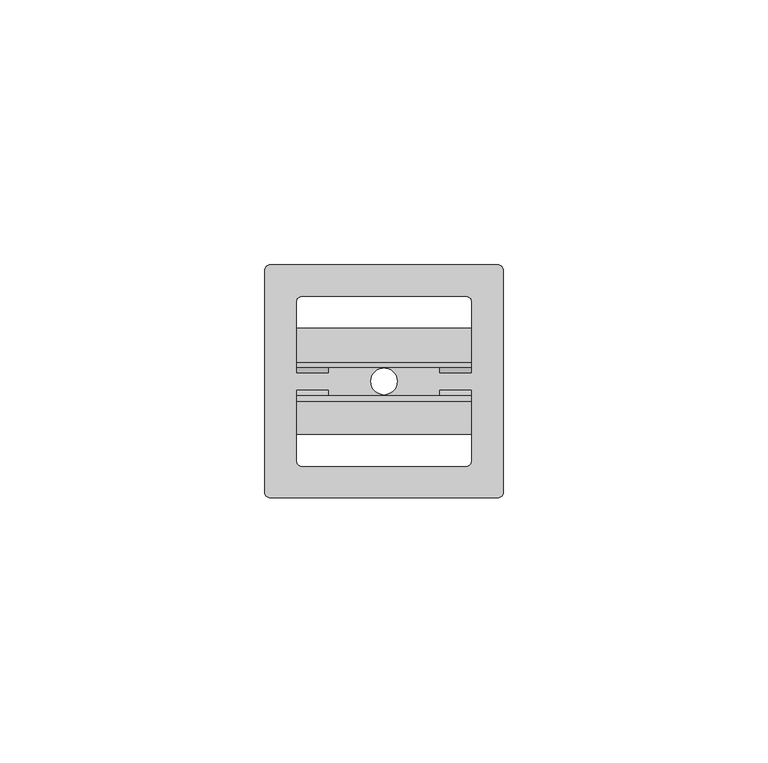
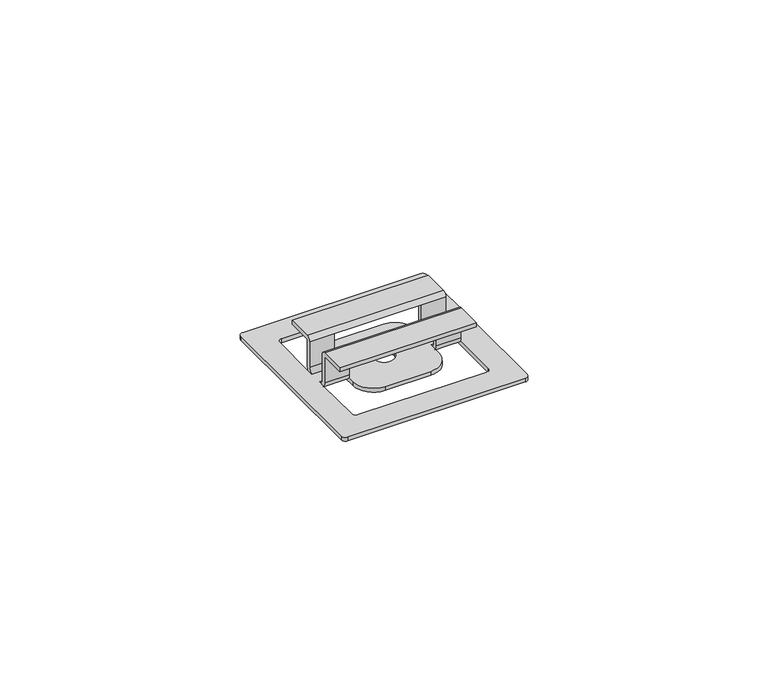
"""IFC4 building model written with IfcOpenShell, lengths in millimetres: proxy geometry, Klips montażowy : Klips montażowy."""

import ifcopenshell
import ifcopenshell.guid

model = None  # the IFC model being written
_history = None  # IfcOwnerHistory: only IFC2X3 demands one
_inside = {}  # id of a spatial element -> (the spatial element, [elements in it])
_under = {}  # id of a project, library or spatial element -> (it, [spatial elements below it])
_declared = {}  # id of a project -> (the project, [libraries it declares])
_typed = {}  # id of a type object -> (the type object, [elements of that type])
_made_of = {}  # id of a material, layer set ... -> (it, [elements and type objects made of it])


def new_model(schema):
    """Start an empty IFC model of exactly this schema.

    Asked for "IFC4X3", IfcOpenShell would pick the latest addendum, in which some entities
    have other attributes; the version numbers below select the first issue.
    IFC2X3 requires an IfcOwnerHistory on every rooted entity: one is made here for all.
    """
    global model, _history
    if schema == "IFC4X3":
        model = ifcopenshell.file(schema_version=(4, 3, 0, 0))
    else:
        model = ifcopenshell.file(schema=schema)
    _inside.clear()
    _under.clear()
    _declared.clear()
    _typed.clear()
    _made_of.clear()
    _history = None
    if model.schema == "IFC2X3":
        org = make("IfcOrganization", Name="unknown")
        user = make(
            "IfcPersonAndOrganization",
            ThePerson=make("IfcPerson", FamilyName="unknown"),
            TheOrganization=org,
        )
        app = make(
            "IfcApplication",
            ApplicationDeveloper=org,
            Version="unknown",
            ApplicationFullName="unknown",
            ApplicationIdentifier="unknown",
        )
        _history = make(
            "IfcOwnerHistory",
            OwningUser=user,
            OwningApplication=app,
            ChangeAction="ADDED",
            CreationDate=0,
        )
    return model


def make(cls, **values):
    """One entity of the class cls with the attributes given. An attribute that is None is left unset."""
    return model.create_entity(
        cls, **{name: value for name, value in values.items() if value is not None}
    )


def rooted(cls, **values):
    """An entity with a GlobalId (a new one), such as an element, a storey or a relation."""
    return make(cls, GlobalId=ifcopenshell.guid.new(), OwnerHistory=_history, **values)


def si_unit(unit_type, name, prefix=None):
    """IfcSIUnit, for example si_unit("LENGTHUNIT", "METRE", prefix="MILLI")."""
    return make("IfcSIUnit", UnitType=unit_type, Prefix=prefix, Name=name)


def assignment(units):
    """IfcUnitAssignment: the units of a project."""
    return None if units is None else make("IfcUnitAssignment", Units=units)


def point(xyz):
    """IfcCartesianPoint."""
    return None if xyz is None else make("IfcCartesianPoint", Coordinates=xyz)


def direction(xyz):
    """IfcDirection."""
    return None if xyz is None else make("IfcDirection", DirectionRatios=xyz)


def frame(location, z_axis=None, x_axis=None):
    """IfcAxis2Placement3D, a coordinate frame: its origin and axes. An axis left out is left unset."""
    return make(
        "IfcAxis2Placement3D",
        Location=point(location),
        Axis=direction(z_axis),
        RefDirection=direction(x_axis),
    )


def origin():
    """The frame at (0, 0, 0) with its axes left unset."""
    return frame((0.0, 0.0, 0.0))


def origin_with_axes():
    """The frame at (0, 0, 0) with the z axis (0, 0, 1) and the x axis (1, 0, 0) written out."""
    return frame((0.0, 0.0, 0.0), z_axis=(0.0, 0.0, 1.0), x_axis=(1.0, 0.0, 0.0))


def place(relative_to, where):
    """IfcLocalPlacement: puts the frame where relative to a parent placement (None: the world)."""
    return make(
        "IfcLocalPlacement", PlacementRelTo=relative_to, RelativePlacement=where
    )


def context(
    kind, dimensions, precision=None, world=None, true_north=None, identifier=None
):
    """IfcGeometricRepresentationContext, for example the 3D "Model" context."""
    return make(
        "IfcGeometricRepresentationContext",
        ContextIdentifier=identifier,
        ContextType=kind,
        CoordinateSpaceDimension=dimensions,
        Precision=precision,
        WorldCoordinateSystem=world,
        TrueNorth=true_north,
    )


def project(units=None, contexts=None):
    """IfcProject with its units and contexts."""
    return rooted(
        "IfcProject",
        Name="project",
        RepresentationContexts=contexts,
        UnitsInContext=assignment(units),
    )


def spatial(cls, under=None, at=None, **own):
    """A site, building, storey or space (cls), placed at a placement, below another one or the project."""
    s = rooted(cls, ObjectPlacement=at, **own)
    if under is not None:
        _under.setdefault(under.id(), (under, []))[1].append(s)
    return s


def polyline(points):
    """IfcPolyline through the points."""
    return make("IfcPolyline", Points=[point(p) for p in points])


def circle_curve(where, radius):
    """IfcCircle in the frame where."""
    return make("IfcCircle", Position=where, Radius=radius)


def shape(context_of_items, identifier, shape_type, items):
    """IfcShapeRepresentation: the items that make up one representation, for example the "Body"."""
    return make(
        "IfcShapeRepresentation",
        ContextOfItems=context_of_items,
        RepresentationIdentifier=identifier,
        RepresentationType=shape_type,
        Items=items,
    )


def source(mapping_origin, context_of_items, identifier, shape_type, items):
    """IfcRepresentationMap: a shape defined once, which mapped items show again and again."""
    return make(
        "IfcRepresentationMap",
        MappingOrigin=mapping_origin,
        MappedRepresentation=shape(context_of_items, identifier, shape_type, items),
    )


def transform(
    local_origin,
    x_axis=None,
    y_axis=None,
    z_axis=None,
    scale=None,
    scale2=None,
    scale3=None,
    uniform=True,
):
    """IfcCartesianTransformationOperator3D, or its non-uniform kind. x_axis, y_axis, z_axis: its Axis1, 2, 3."""
    if uniform:
        return make(
            "IfcCartesianTransformationOperator3D",
            Axis1=direction(x_axis),
            Axis2=direction(y_axis),
            LocalOrigin=point(local_origin),
            Scale=scale,
            Axis3=direction(z_axis),
        )
    return make(
        "IfcCartesianTransformationOperator3DnonUniform",
        Axis1=direction(x_axis),
        Axis2=direction(y_axis),
        LocalOrigin=point(local_origin),
        Scale=scale,
        Axis3=direction(z_axis),
        Scale2=scale2,
        Scale3=scale3,
    )


def mapped(mapping_source, mapping_target):
    """IfcMappedItem: shows the shape of a source again, moved by a transform."""
    return make(
        "IfcMappedItem", MappingSource=mapping_source, MappingTarget=mapping_target
    )


def made_of(thing, what):
    """Note that an element or type object is made of a material, layer set ...; save() writes the relation."""
    if what is not None:
        _made_of.setdefault(what.id(), (what, []))[1].append(thing)
    return thing


def element(
    cls,
    number,
    at=None,
    inside=None,
    cuts=None,
    type_object=None,
    material=None,
    context=None,
    identifier="Body",
    shape_type=None,
    held_by="IfcProductDefinitionShape",
    body=None,
    shapes=None,
    **own,
):
    """One element of the class cls, such as IfcWall. Its Tag is "e" and its number.

    at: its placement. inside: the storey or other place that contains it. cuts: it is an
    opening in that element (IfcRelVoidsElement). A single representation is given by context,
    identifier, shape_type and body (its items); several are given by shapes. held_by: the class
    of the entity that holds the representations. save() writes the other relations.
    """
    e = rooted(cls, Tag="e%d" % number, ObjectPlacement=at, **own)
    if body is not None:
        shapes = [shape(context, identifier, shape_type, body)]
    if shapes is not None:
        e.Representation = make(held_by, Representations=shapes)
    if inside is not None:
        _inside.setdefault(inside.id(), (inside, []))[1].append(e)
    if cuts is not None:
        rooted(
            "IfcRelVoidsElement", RelatingBuildingElement=cuts, RelatedOpeningElement=e
        )
    if type_object is not None:
        _typed.setdefault(type_object.id(), (type_object, []))[1].append(e)
    return made_of(e, material)


def aggregate(whole, parts):
    """IfcRelAggregates: a whole, such as a stair, and the parts it consists of."""
    return rooted("IfcRelAggregates", RelatingObject=whole, RelatedObjects=parts)


def save(model, path):
    """Write the relations noted so far, then the file.

    IfcRelAggregates (storeys below a building ...), IfcRelContainedInSpatialStructure (elements
    in a storey), IfcRelDefinesByType, IfcRelAssociatesMaterial and IfcRelDeclares: one each for
    every whole, place, type object, material and project.
    """
    for whole, parts in _under.values():
        aggregate(whole, parts)
    for where, things in _inside.values():
        rooted(
            "IfcRelContainedInSpatialStructure",
            RelatedElements=things,
            RelatingStructure=where,
        )
    for kind, things in _typed.values():
        rooted("IfcRelDefinesByType", RelatedObjects=things, RelatingType=kind)
    for what, things in _made_of.values():
        rooted("IfcRelAssociatesMaterial", RelatedObjects=things, RelatingMaterial=what)
    for by, libraries in _declared.values():
        rooted("IfcRelDeclares", RelatingContext=by, RelatedDefinitions=libraries)
    model.write(path)


def plane_surface(at):
    """IfcPlane: the flat surface through the origin of the frame at, square to its z axis."""
    return make("IfcPlane", Position=at)


def cylinder_surface(at, radius):
    """IfcCylindricalSurface: all points at the distance radius from the z axis of the frame at."""
    return make("IfcCylindricalSurface", Position=at, Radius=radius)


def revolved_surface(curve, axis_point, axis_direction):
    """IfcSurfaceOfRevolution: the curve turned about the line through axis_point along axis_direction."""
    return make(
        "IfcSurfaceOfRevolution",
        SweptCurve=make("IfcArbitraryOpenProfileDef", ProfileType="CURVE", Curve=curve),
        AxisPosition=make("IfcAxis1Placement", Location=point(axis_point), Axis=direction(axis_direction)),
    )


def advanced_brep(points, edges, surfaces, faces):
    """IfcAdvancedBrep: a solid bounded by faces that lie on surfaces and meet in shared edges.

    An edge is (start, end): straight between two places in points (the first is 0);
    or (start, end, curve); or (start, end, curve, False) where it runs against its curve.
    A face is (place in surfaces, loops), or (place, loops, False) where it looks against
    its surface's normal. A loop lists edges by number (the first is 1), with a minus sign
    where the edge is run from its end to its start. The first loop is the outer one.
    """
    corners = [point(p) for p in points]
    vertices = [make("IfcVertexPoint", VertexGeometry=c) for c in corners]
    made = []
    for start, end, *more in edges:
        made.append(
            make(
                "IfcEdgeCurve",
                EdgeStart=vertices[start],
                EdgeEnd=vertices[end],
                EdgeGeometry=more[0] if more else make("IfcPolyline", Points=[corners[start], corners[end]]),
                SameSense=more[1] if len(more) > 1 else True,
            )
        )
    hull = []
    for where, loops, *sense in faces:
        bounds = []
        for j, loop in enumerate(loops):
            ring = [make("IfcOrientedEdge", EdgeElement=made[abs(k) - 1], Orientation=k > 0) for k in loop]
            bounds.append(
                make(
                    "IfcFaceOuterBound" if j == 0 else "IfcFaceBound",
                    Bound=make("IfcEdgeLoop", EdgeList=ring),
                    Orientation=True,
                )
            )
        hull.append(make("IfcAdvancedFace", Bounds=bounds, FaceSurface=surfaces[where], SameSense=sense[0] if sense else True))
    return make("IfcAdvancedBrep", Outer=make("IfcClosedShell", CfsFaces=hull))


def generic_models_f2eebd4b(model_context):
    return source(origin(), model_context, "Body", "AdvancedBrep", [
        advanced_brep(
        [(16.5, -3.6844649, 8.666), (16.5, -3.6844649, 1.9723073), (16.5, -3.4089639, 1.0), (16.5, -1.6885343, 1.0), (16.5, -2.6891227, 1.9954102), (16.5, -2.6891227, 8.666), (16.5, -3.7311067, 9.6658), (16.5, -10.0322909, 9.6658), (16.5, -10.0322909, 8.666), (16.5, 3.6409465, 2.0700337), (16.5, 3.6534048, 8.666), (16.5, 9.9865748, 8.666), (16.5, 9.9865748, 9.6658), (16.5, 3.6448777, 9.6667099), (16.5, 2.6457721, 8.666), (16.5, 2.6457721, 2.0994903), (16.5, 1.6443952, 0.9956102), (16.5, 3.3175556, 1.0), (-16.5, -3.6844649, 8.666), (-16.5, -10.0322909, 8.666), (-16.5, -10.0322909, 9.6658), (-16.5, -3.7311067, 9.6658), (-16.5, -2.6891227, 8.666), (-16.5, -2.6891227, 1.9954102), (-16.5, -1.6885343, 0.9956102), (-16.5, -3.4089639, 1.0), (-16.5, -3.6844649, 1.9723073), (-16.5, 1.6443952, 0.9956102), (-16.5, 2.6457721, 2.0994903), (-16.5, 2.6457721, 8.666), (-16.5, 3.6448777, 9.6667099), (-16.5, 9.9865748, 9.6658), (-16.5, 9.9865748, 8.666), (-16.5, 3.6534048, 8.666), (-16.5, 3.6409465, 2.0700337), (-16.5, 3.3175556, 1.0), (10.5, -3.6844649, 8.666), (10.5, -3.6844649, 1.9723073), (-10.5, -3.6844649, 1.9723073), (-10.5, -3.6844649, 8.666), (10.5, -3.4089639, 1.0), (10.5, -1.6978174, 0.0), (16.5, -1.6978174, 0.0), (-16.5, -1.6978174, 0.0), (-10.5, -1.6978174, 0.0), (-10.5, -3.4089639, 1.0), (-21.5, 22.0, 0.0), (21.5, 22.0, 0.0), (22.5, 21.0, 0.0), (22.5, -21.0, 0.0), (21.5, -22.0, 0.0), (-21.5, -22.0, 0.0), (-22.5, -21.0, 0.0), (-22.5, 21.0, 0.0), (10.5, -5.0, 0.0), (5.5, -10.0, 0.0), (-5.5, -10.0, 0.0), (-10.5, -5.0, 0.0), (-16.5, -15.0, 0.0), (-15.5, -16.0, 0.0), (15.5, -16.0, 0.0), (16.5, -15.0, 0.0), (-2.5, 0.0, 0.0), (2.5, 0.0, 0.0), (10.5, 1.6978174, 0.0), (16.5, 1.6978174, 0.0), (16.5, 15.0, 0.0), (15.5, 16.0, 0.0), (-15.5, 16.0, 0.0), (-16.5, 15.0, 0.0), (-16.5, 1.6978174, 0.0), (-10.5, 1.6978174, 0.0), (-10.5, 5.0, 0.0), (-5.5, 10.0, 0.0), (5.5, 10.0, 0.0), (10.5, 5.0, 0.0), (10.5, 3.3175556, 1.0), (10.5, 3.6409465, 2.0700337), (-10.5, 3.6409465, 2.0700337), (-10.5, 3.3175556, 1.0), (10.5, 3.6534048, 8.666), (-10.5, 3.6534048, 8.666), (-10.5, -2.6891227, 8.666), (10.5, -2.6891227, 8.666), (10.5, 2.6457721, 8.666), (-10.5, 2.6457721, 8.666), (10.5, 2.6457721, 2.0994903), (-10.5, 2.6457721, 2.0994903), (10.5, 1.6443952, 0.9956102), (-10.5, 1.6443952, 0.9956102), (-21.5, 22.0, 0.9956102), (-22.5, 21.0, 0.9956102), (-22.5, -21.0, 0.9956102), (-21.5, -22.0, 0.9956102), (21.5, -22.0, 0.9956102), (22.5, -21.0, 0.9956102), (22.5, 21.0, 0.9956102), (21.5, 22.0, 0.9956102), (10.5, 5.0, 0.9956102), (5.5, 10.0, 0.9956102), (-5.5, 10.0, 0.9956102), (-10.5, 5.0, 0.9956102), (-16.5, 15.0, 0.9956102), (-15.5, 16.0, 0.9956102), (15.5, 16.0, 0.9956102), (16.5, 15.0, 0.9956102), (-2.5, 0.0, 0.9956102), (2.5, 0.0, 0.9956102), (10.5, -1.6885343, 0.9956102), (16.5, -15.0, 0.9956102), (15.5, -16.0, 0.9956102), (-15.5, -16.0, 0.9956102), (-16.5, -15.0, 0.9956102), (-10.5, -1.6885343, 0.9956102), (-10.5, -5.0, 0.9956102), (-5.5, -10.0, 0.9956102), (5.5, -10.0, 0.9956102), (10.5, -5.0, 0.9956102), (10.5, -2.6891227, 1.9954102), (-10.5, -2.6891227, 1.9954102)],
        [
            (0, 1),
            (1, 2, circle_curve(frame((16.5, -1.6655837, 2.0191676), z_axis=(1.0, 0.0, 0.0), x_axis=(0.0, -0.015961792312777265, -0.9998726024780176)), 2.0194249)),
            (2, 3),
            (3, 4, circle_curve(frame((16.5, -1.6655837, 2.0191676), z_axis=(-1.0, 0.0, 0.0), x_axis=(0.0, -0.02241668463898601, -0.9997487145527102)), 1.0238147)),
            (4, 5),
            (5, 6, circle_curve(frame((16.5, -3.7069712, 8.6480799), z_axis=(1.0, 0.0, 0.0), x_axis=(0.0, -0.02370861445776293, 0.9997189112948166)), 1.0180062)),
            (6, 7),
            (7, 8),
            (8, 0),
            (9, 10),
            (10, 11),
            (11, 12),
            (12, 13),
            (13, 14, circle_curve(frame((16.5, 3.6447343, 8.6677462), z_axis=(1.0, 0.0, 0.0), x_axis=(0.0, -0.9999984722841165, -0.0017479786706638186)), 0.9989637)),
            (14, 15),
            (15, 16, circle_curve(frame((16.5, 1.4992351, 2.1334272), z_axis=(-1.0, 0.0, 0.0), x_axis=(0.0, 0.999562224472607, -0.029586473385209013)), 1.1470392)),
            (16, 17),
            (17, 9, circle_curve(frame((16.5, 1.4992351, 2.1334272), z_axis=(1.0, 0.0, 0.0), x_axis=(0.0, 0.999562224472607, -0.02958647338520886)), 2.1426494)),
            (18, 19),
            (19, 20),
            (20, 21),
            (21, 22, circle_curve(frame((-16.5, -3.7069712, 8.6480799), z_axis=(-1.0, 0.0, 0.0), x_axis=(0.0, -0.02370861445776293, 0.9997189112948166)), 1.0180062)),
            (22, 23),
            (23, 24, circle_curve(frame((-16.5, -1.6655837, 2.0191676), z_axis=(1.0, 0.0, 0.0), x_axis=(0.0, -0.02241668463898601, -0.9997487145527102)), 1.0238147)),
            (24, 25),
            (25, 26, circle_curve(frame((-16.5, -1.6655837, 2.0191676), z_axis=(-1.0, 0.0, 0.0), x_axis=(0.0, -0.015961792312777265, -0.9998726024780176)), 2.0194249)),
            (26, 18),
            (27, 28, circle_curve(frame((-16.5, 1.4992351, 2.1334272), z_axis=(1.0, 0.0, 0.0), x_axis=(0.0, 0.999562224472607, -0.029586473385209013)), 1.1470392)),
            (28, 29),
            (29, 30, circle_curve(frame((-16.5, 3.6447343, 8.6677462), z_axis=(-1.0, 0.0, 0.0), x_axis=(0.0, -0.9999984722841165, -0.0017479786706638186)), 0.9989637)),
            (30, 31),
            (31, 32),
            (32, 33),
            (33, 34),
            (34, 35, circle_curve(frame((-16.5, 1.4992351, 2.1334272), z_axis=(-1.0, 0.0, 0.0), x_axis=(0.0, 0.999562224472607, -0.02958647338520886)), 2.1426494)),
            (35, 27),
            (0, 36),
            (36, 37),
            (37, 1),
            (26, 38),
            (38, 39),
            (39, 18),
            (37, 40, circle_curve(frame((10.5, -1.6655837, 2.0191676), z_axis=(1.0, 0.0, 0.0), x_axis=(0.0, -0.015961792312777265, -0.9998726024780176)), 2.0194249)),
            (40, 41, circle_curve(frame((10.5, -1.6655837, 2.0191676), z_axis=(1.0, 0.0, 0.0), x_axis=(0.0, -0.015961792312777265, -0.9998726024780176)), 2.0194249)),
            (41, 42),
            (42, 2, circle_curve(frame((16.5, -1.6655837, 2.0191676), z_axis=(-1.0, 0.0, 0.0), x_axis=(0.0, -0.015961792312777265, -0.9998726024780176)), 2.0194249)),
            (25, 43, circle_curve(frame((-16.5, -1.6655837, 2.0191676), z_axis=(1.0, 0.0, 0.0), x_axis=(0.0, -0.015961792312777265, -0.9998726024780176)), 2.0194249)),
            (43, 44),
            (44, 45, circle_curve(frame((-10.5, -1.6655837, 2.0191676), z_axis=(-1.0, 0.0, 0.0), x_axis=(0.0, -0.015961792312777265, -0.9998726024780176)), 2.0194249)),
            (45, 38, circle_curve(frame((-10.5, -1.6655837, 2.0191676), z_axis=(-1.0, 0.0, 0.0), x_axis=(0.0, -0.015961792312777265, -0.9998726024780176)), 2.0194249)),
            (46, 47),
            (47, 48, circle_curve(frame((21.5, 21.0, 0.0), z_axis=(0.0, 0.0, -1.0), x_axis=(1.0, 0.0, 0.0)), 1.0)),
            (48, 49),
            (49, 50, circle_curve(frame((21.5, -21.0, 0.0), z_axis=(0.0, 0.0, -1.0), x_axis=(0.0, -1.0, 0.0)), 1.0)),
            (50, 51),
            (51, 52, circle_curve(frame((-21.5, -21.0, 0.0), z_axis=(0.0, 0.0, -1.0), x_axis=(-1.0, 0.0, 0.0)), 1.0)),
            (52, 53),
            (53, 46, circle_curve(frame((-21.5, 21.0, 0.0), z_axis=(0.0, 0.0, -1.0), x_axis=(0.0, 1.0, 0.0)), 1.0)),
            (41, 54),
            (54, 55, circle_curve(frame((5.5, -5.0, 0.0), z_axis=(0.0, 0.0, -1.0), x_axis=(0.0, -1.0, 0.0)), 5.0)),
            (55, 56),
            (56, 57, circle_curve(frame((-5.5, -5.0, 0.0), z_axis=(0.0, 0.0, -1.0), x_axis=(-1.0, 0.0, 0.0)), 5.0)),
            (57, 44),
            (43, 58),
            (58, 59, circle_curve(frame((-15.5, -15.0, 0.0), z_axis=(0.0, 0.0, 1.0), x_axis=(-1.0, 0.0, 0.0)), 1.0)),
            (59, 60),
            (60, 61, circle_curve(frame((15.5, -15.0, 0.0), z_axis=(0.0, 0.0, 1.0), x_axis=(0.0, -1.0, 0.0)), 1.0)),
            (61, 42),
            (62, 63, circle_curve(origin_with_axes(), 2.5)),
            (63, 62, circle_curve(origin_with_axes(), 2.5)),
            (64, 65),
            (65, 66),
            (66, 67, circle_curve(frame((15.5, 15.0, 0.0), z_axis=(0.0, 0.0, 1.0), x_axis=(1.0, 0.0, 0.0)), 1.0)),
            (67, 68),
            (68, 69, circle_curve(frame((-15.5, 15.0, 0.0), z_axis=(0.0, 0.0, 1.0), x_axis=(0.0, 1.0, 0.0)), 1.0)),
            (69, 70),
            (70, 71),
            (71, 72),
            (72, 73, circle_curve(frame((-5.5, 5.0, 0.0), z_axis=(0.0, 0.0, -1.0), x_axis=(0.0, 1.0, 0.0)), 5.0)),
            (73, 74),
            (74, 75, circle_curve(frame((5.5, 5.0, 0.0), z_axis=(0.0, 0.0, -1.0), x_axis=(1.0, 0.0, 0.0)), 5.0)),
            (75, 64),
            (64, 76, circle_curve(frame((10.5, 1.4992351, 2.1334272), z_axis=(1.0, 0.0, 0.0), x_axis=(0.0, 0.999562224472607, -0.02958647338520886)), 2.1426494)),
            (76, 77, circle_curve(frame((10.5, 1.4992351, 2.1334272), z_axis=(1.0, 0.0, 0.0), x_axis=(0.0, 0.999562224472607, -0.02958647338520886)), 2.1426494)),
            (77, 9),
            (17, 65, circle_curve(frame((16.5, 1.4992351, 2.1334272), z_axis=(-1.0, 0.0, 0.0), x_axis=(0.0, 0.999562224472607, -0.02958647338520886)), 2.1426494)),
            (70, 35, circle_curve(frame((-16.5, 1.4992351, 2.1334272), z_axis=(1.0, 0.0, 0.0), x_axis=(0.0, 0.999562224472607, -0.02958647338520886)), 2.1426494)),
            (34, 78),
            (78, 79, circle_curve(frame((-10.5, 1.4992351, 2.1334272), z_axis=(-1.0, 0.0, 0.0), x_axis=(0.0, 0.999562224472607, -0.02958647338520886)), 2.1426494)),
            (79, 71, circle_curve(frame((-10.5, 1.4992351, 2.1334272), z_axis=(-1.0, 0.0, 0.0), x_axis=(0.0, 0.999562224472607, -0.02958647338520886)), 2.1426494)),
            (77, 80),
            (80, 10),
            (33, 81),
            (81, 78),
            (8, 19),
            (39, 82),
            (82, 83),
            (83, 36),
            (80, 84),
            (84, 85),
            (85, 81),
            (32, 11),
            (31, 12),
            (30, 13),
            (29, 85),
            (84, 14),
            (84, 86),
            (86, 15),
            (28, 87),
            (87, 85),
            (86, 88, circle_curve(frame((10.5, 1.4992351, 2.1334272), z_axis=(-1.0, 0.0, 0.0), x_axis=(0.0, 0.999562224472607, -0.029586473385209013)), 1.1470392)),
            (88, 16),
            (27, 89),
            (89, 87, circle_curve(frame((-10.5, 1.4992351, 2.1334272), z_axis=(1.0, 0.0, 0.0), x_axis=(0.0, 0.999562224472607, -0.029586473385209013)), 1.1470392)),
            (90, 91, circle_curve(frame((-21.5, 21.0, 0.9956102), z_axis=(0.0, 0.0, 1.0), x_axis=(0.0, 1.0, 0.0)), 1.0)),
            (91, 92),
            (92, 93, circle_curve(frame((-21.5, -21.0, 0.9956102), z_axis=(0.0, 0.0, 1.0), x_axis=(-1.0, 0.0, 0.0)), 1.0)),
            (93, 94),
            (94, 95, circle_curve(frame((21.5, -21.0, 0.9956102), z_axis=(0.0, 0.0, 1.0), x_axis=(0.0, -1.0, 0.0)), 1.0)),
            (95, 96),
            (96, 97, circle_curve(frame((21.5, 21.0, 0.9956102), z_axis=(0.0, 0.0, 1.0), x_axis=(1.0, 0.0, 0.0)), 1.0)),
            (97, 90),
            (88, 76),
            (76, 98),
            (98, 99, circle_curve(frame((5.5, 5.0, 0.9956102), z_axis=(0.0, 0.0, 1.0), x_axis=(1.0, 0.0, 0.0)), 5.0)),
            (99, 100),
            (100, 101, circle_curve(frame((-5.5, 5.0, 0.9956102), z_axis=(0.0, 0.0, 1.0), x_axis=(0.0, 1.0, 0.0)), 5.0)),
            (101, 79),
            (79, 89),
            (35, 102),
            (102, 103, circle_curve(frame((-15.5, 15.0, 0.9956102), z_axis=(0.0, 0.0, -1.0), x_axis=(0.0, 1.0, 0.0)), 1.0)),
            (103, 104),
            (104, 105, circle_curve(frame((15.5, 15.0, 0.9956102), z_axis=(0.0, 0.0, -1.0), x_axis=(1.0, 0.0, 0.0)), 1.0)),
            (105, 17),
            (106, 107, circle_curve(frame((0.0, 0.0, 0.9956102), z_axis=(0.0, 0.0, -1.0), x_axis=(1.0, 0.0, 0.0)), 2.5)),
            (107, 106, circle_curve(frame((0.0, 0.0, 0.9956102), z_axis=(0.0, 0.0, -1.0), x_axis=(1.0, 0.0, 0.0)), 2.5)),
            (108, 3),
            (2, 109),
            (109, 110, circle_curve(frame((15.5, -15.0, 0.9956102), z_axis=(0.0, 0.0, -1.0), x_axis=(0.0, -1.0, 0.0)), 1.0)),
            (110, 111),
            (111, 112, circle_curve(frame((-15.5, -15.0, 0.9956102), z_axis=(0.0, 0.0, -1.0), x_axis=(-1.0, 0.0, 0.0)), 1.0)),
            (112, 25),
            (24, 113),
            (113, 45),
            (45, 114),
            (114, 115, circle_curve(frame((-5.5, -5.0, 0.9956102), z_axis=(0.0, 0.0, 1.0), x_axis=(-1.0, 0.0, 0.0)), 5.0)),
            (115, 116),
            (116, 117, circle_curve(frame((5.5, -5.0, 0.9956102), z_axis=(0.0, 0.0, 1.0), x_axis=(0.0, -1.0, 0.0)), 5.0)),
            (117, 40),
            (40, 108),
            (108, 118, circle_curve(frame((10.5, -1.6655837, 2.0191676), z_axis=(-1.0, 0.0, 0.0), x_axis=(0.0, -0.02241668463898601, -0.9997487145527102)), 1.0238147)),
            (118, 4),
            (23, 119),
            (119, 113, circle_curve(frame((-10.5, -1.6655837, 2.0191676), z_axis=(1.0, 0.0, 0.0), x_axis=(0.0, -0.02241668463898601, -0.9997487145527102)), 1.0238147)),
            (118, 83),
            (83, 5),
            (22, 82),
            (82, 119),
            (21, 6),
            (20, 7),
            (90, 46),
            (53, 91),
            (52, 92),
            (51, 93),
            (50, 94),
            (49, 95),
            (48, 96),
            (47, 97),
            (103, 68),
            (67, 104),
            (66, 105),
            (61, 109),
            (60, 110),
            (59, 111),
            (58, 112),
            (69, 102),
            (101, 72),
            (57, 114),
            (56, 115),
            (55, 116),
            (54, 117),
            (75, 98),
            (74, 99),
            (73, 100),
            (106, 62),
            (63, 107),
        ],
        [
            plane_surface(frame((16.5, -3.6844649, 1.9723073), z_axis=(1.0, 0.0, 0.0), x_axis=(0.0, 0.0, -1.0))),
            plane_surface(frame((-16.5, -3.6844649, 1.9723073), z_axis=(-1.0, 0.0, 0.0), x_axis=(0.0, 0.0, 1.0))),
            plane_surface(frame((16.5, -3.6844649, 8.666), z_axis=(0.0, -1.0, 0.0), x_axis=(-1.0, 0.0, 0.0))),
            cylinder_surface(frame((-16.5, -1.6655837, 2.0191676), z_axis=(1.0, 0.0, 0.0), x_axis=(0.0, -0.015961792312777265, -0.9998726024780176)), 2.0194249),
            plane_surface(frame((16.5, -1.6978174, 0.0), z_axis=(0.0, 0.0, -1.0), x_axis=(-1.0, 0.0, 0.0))),
            cylinder_surface(frame((-16.5, 1.4992351, 2.1334272), z_axis=(1.0, 0.0, 0.0), x_axis=(0.0, 0.999562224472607, -0.02958647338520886)), 2.1426494),
            plane_surface(frame((16.5, 3.6409465, 2.0700337), z_axis=(0.0, 0.999998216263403, -0.001888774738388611), x_axis=(-1.0, 0.0, 0.0))),
            plane_surface(frame((16.5, 3.6534048, 8.666), z_axis=(0.0, 0.0, -1.0), x_axis=(-1.0, 0.0, 0.0))),
            plane_surface(frame((16.5, 9.9865748, 8.666), z_axis=(0.0, 1.0, 0.0), x_axis=(-1.0, 0.0, 0.0))),
            plane_surface(frame((16.5, 9.9865748, 9.6658), z_axis=(0.0, 0.00014347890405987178, 0.9999999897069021), x_axis=(-1.0, 0.0, 0.0))),
            cylinder_surface(frame((-16.5, 3.6447343, 8.6677462), z_axis=(1.0, 0.0, 0.0), x_axis=(0.0, -0.9999984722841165, -0.0017479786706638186)), 0.9989637),
            plane_surface(frame((16.5, 2.6457721, 8.666), z_axis=(0.0, -1.0, 0.0), x_axis=(-1.0, 0.0, 0.0))),
            revolved_surface(polyline([(10.5, 2.6457721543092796, 2.0994903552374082), (16.5, 2.6457721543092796, 2.0994903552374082)]), (-16.5, 1.4992351, 2.1334272), (-1.0, 0.0, 0.0)),
            revolved_surface(polyline([(-16.5, 2.6457721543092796, 2.0994903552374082), (-10.5, 2.6457721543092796, 2.0994903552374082)]), (-16.5, 1.4992351, 2.1334272), (-1.0, 0.0, 0.0)),
            plane_surface(frame((16.5, 1.6443952, 0.9956102), z_axis=(0.0, 0.0, 1.0), x_axis=(-1.0, 0.0, 0.0))),
            revolved_surface(polyline([(10.500000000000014, -1.688534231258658, 0.9956101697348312), (16.500000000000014, -1.688534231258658, 0.9956101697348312)]), (-16.5, -1.6655837, 2.0191676), (-1.0000000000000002, 0.0, 0.0)),
            revolved_surface(polyline([(-16.5, -1.688534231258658, 0.9956101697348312), (-10.499999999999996, -1.688534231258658, 0.9956101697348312)]), (-16.5, -1.6655837, 2.0191676), (-1.0000000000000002, 0.0, 0.0)),
            plane_surface(frame((16.5, -2.6891227, 1.9954102), z_axis=(0.0, 1.0, 0.0), x_axis=(-1.0, 0.0, 0.0))),
            cylinder_surface(frame((-16.5, -3.7069712, 8.6480799), z_axis=(1.0000000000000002, 0.0, 0.0), x_axis=(0.0, -0.02370861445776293, 0.9997189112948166)), 1.0180062),
            plane_surface(frame((16.5, -3.7311067, 9.6658), z_axis=(0.0, 0.0, 1.0), x_axis=(-1.0, 0.0, 0.0))),
            plane_surface(frame((16.5, -10.0322909, 9.6658), z_axis=(0.0, -1.0, 0.0), x_axis=(-1.0, 0.0, 0.0))),
            plane_surface(frame((10.5, -8.8211799, 0.0), z_axis=(-1.0, 0.0, 0.0), x_axis=(0.0, 1.0, 0.0))),
            plane_surface(frame((-10.5, -8.8211799, 8.666), z_axis=(1.0, 0.0, 0.0), x_axis=(0.0, 1.0, 0.0))),
            cylinder_surface(frame((-21.5, 21.0, 0.0), z_axis=(0.0, 0.0, 1.0), x_axis=(0.0, 1.0, 0.0)), 1.0),
            plane_surface(frame((-22.5, 21.0, 1.0), z_axis=(-1.0, 0.0, 0.0), x_axis=(0.0, 0.0, -1.0))),
            cylinder_surface(frame((-21.5, -21.0, 0.0), z_axis=(0.0, 0.0, 1.0), x_axis=(-1.0, 0.0, 0.0)), 1.0),
            plane_surface(frame((-21.5, -22.0, 1.0), z_axis=(0.0, -1.0, 0.0), x_axis=(0.0, 0.0, -1.0))),
            cylinder_surface(frame((21.5, -21.0, 0.0), z_axis=(0.0, 0.0, 1.0), x_axis=(0.0, -1.0, 0.0)), 1.0),
            plane_surface(frame((22.5, -21.0, 1.0), z_axis=(1.0, 0.0, 0.0), x_axis=(0.0, 0.0, -1.0))),
            cylinder_surface(frame((21.5, 21.0, 0.0), z_axis=(0.0, 0.0, 1.0), x_axis=(1.0, 0.0, 0.0)), 1.0),
            plane_surface(frame((21.5, 22.0, 1.0), z_axis=(0.0, 1.0, 0.0), x_axis=(0.0, 0.0, -1.0))),
            plane_surface(frame((-15.5, 16.0, 1.0), z_axis=(0.0, -1.0, 0.0), x_axis=(0.0, 0.0, -1.0))),
            revolved_surface(polyline([(16.5, 15.0, 0.0), (16.5, 15.0, 0.9956102)]), (15.5, 15.0, 0.0), (0.0, 0.0, -1.0)),
            plane_surface(frame((16.5, 15.0, 1.0), z_axis=(-1.0, 0.0, 0.0), x_axis=(0.0, 0.0, -1.0))),
            revolved_surface(polyline([(15.5, -16.0, 0.0), (15.5, -16.0, 0.9956102)]), (15.5, -15.0, 0.0), (0.0, 0.0, -1.0)),
            plane_surface(frame((15.5, -16.0, 1.0), z_axis=(0.0, 1.0, 0.0), x_axis=(0.0, 0.0, -1.0))),
            revolved_surface(polyline([(-16.5, -15.0, 0.0), (-16.5, -15.0, 0.9956102)]), (-15.5, -15.0, 0.0), (0.0, 0.0, -1.0)),
            plane_surface(frame((-16.5, -15.0, 1.0), z_axis=(1.0, 0.0, 0.0), x_axis=(0.0, 0.0, -1.0))),
            revolved_surface(polyline([(-15.5, 16.0, 0.0), (-15.5, 16.0, 0.9956102)]), (-15.5, 15.0, 0.0), (0.0, 0.0, -1.0)),
            plane_surface(frame((-10.5, 5.0, 1.0), z_axis=(-1.0, 0.0, 0.0), x_axis=(0.0, 0.0, -1.0))),
            cylinder_surface(frame((-5.5, -5.0, 0.0), z_axis=(0.0, 0.0, 1.0), x_axis=(-1.0, 0.0, 0.0)), 5.0),
            plane_surface(frame((-5.5, -10.0, 1.0), z_axis=(0.0, -1.0, 0.0), x_axis=(0.0, 0.0, -1.0))),
            cylinder_surface(frame((5.5, -5.0, 0.0), z_axis=(0.0, 0.0, 1.0), x_axis=(0.0, -1.0, 0.0)), 5.0),
            plane_surface(frame((10.5, -5.0, 1.0), z_axis=(1.0, 0.0, 0.0), x_axis=(0.0, 0.0, -1.0))),
            cylinder_surface(frame((5.5, 5.0, 0.0), z_axis=(0.0, 0.0, 1.0), x_axis=(1.0, 0.0, 0.0)), 5.0),
            plane_surface(frame((5.5, 10.0, 1.0), z_axis=(0.0, 1.0, 0.0), x_axis=(0.0, 0.0, -1.0))),
            cylinder_surface(frame((-5.5, 5.0, 0.0), z_axis=(0.0, 0.0, 1.0), x_axis=(0.0, 1.0, 0.0)), 5.0),
            revolved_surface(polyline([(2.5, 0.0, 0.0), (2.5, 0.0, 0.9956102)]), (0.0, 0.0, 0.0), (0.0, 0.0, -1.0)),
        ],
        [
            (0, [[1, 2, 3, 4, 5, 6, 7, 8, 9]]),
            (0, [[10, 11, 12, 13, 14, 15, 16, 17, 18]]),
            (1, [[19, 20, 21, 22, 23, 24, 25, 26, 27]]),
            (1, [[28, 29, 30, 31, 32, 33, 34, 35, 36]]),
            (2, [[-1, 37, 38, 39]]),
            (2, [[-27, 40, 41, 42]]),
            (3, [[-39, 43, 44, 45, 46, -2]]),
            (3, [[-40, -26, 47, 48, 49, 50]]),
            (4, [[51, 52, 53, 54, 55, 56, 57, 58], [-45, 59, 60, 61, 62, 63, -48, 64, 65, 66, 67, 68], [69, 70], [71, 72, 73, 74, 75, 76, 77, 78, 79, 80, 81, 82]]),
            (5, [[-71, 83, 84, 85, -18, 86]]),
            (5, [[-77, 87, -35, 88, 89, 90]]),
            (6, [[-10, -85, 91, 92]]),
            (6, [[-34, 93, 94, -88]]),
            (7, [[-9, 95, -19, -42, 96, 97, 98, -37]]),
            (7, [[-11, -92, 99, 100, 101, -93, -33, 102]]),
            (8, [[-12, -102, -32, 103]]),
            (9, [[-13, -103, -31, 104]]),
            (10, [[-14, -104, -30, 105, -100, 106]]),
            (11, [[-15, -106, 107, 108]]),
            (11, [[-29, 109, 110, -105]]),
            (12, [[-16, -108, 111, 112]]),
            (13, [[-28, 113, 114, -109]]),
            (14, [[115, 116, 117, 118, 119, 120, 121, 122], [-112, 123, 124, 125, 126, 127, 128, 129, -113, -36, 130, 131, 132, 133, 134, -17], [135, 136], [137, -3, 138, 139, 140, 141, 142, -25, 143, 144, 145, 146, 147, 148, 149, 150]]),
            (15, [[-4, -137, 151, 152]]),
            (16, [[-24, 153, 154, -143]]),
            (17, [[-5, -152, 155, 156]]),
            (17, [[-23, 157, 158, -153]]),
            (18, [[-6, -156, -97, -157, -22, 159]]),
            (19, [[-7, -159, -21, 160]]),
            (20, [[-8, -160, -20, -95]]),
            (21, [[-98, -155, -151, -150, -43, -38]]),
            (21, [[-99, -91, -84, -123, -111, -107]]),
            (22, [[-101, -110, -114, -129, -89, -94]]),
            (22, [[-96, -41, -50, -144, -154, -158]]),
            (23, [[-115, 161, -58, 162]]),
            (24, [[-116, -162, -57, 163]]),
            (25, [[-117, -163, -56, 164]]),
            (26, [[-118, -164, -55, 165]]),
            (27, [[-119, -165, -54, 166]]),
            (28, [[-120, -166, -53, 167]]),
            (29, [[-121, -167, -52, 168]]),
            (30, [[-122, -168, -51, -161]]),
            (31, [[-132, 169, -74, 170]]),
            (32, [[-133, -170, -73, 171]]),
            (33, [[-171, -72, -86, -134]]),
            (33, [[172, -138, -46, -68]]),
            (34, [[-139, -172, -67, 173]]),
            (35, [[-140, -173, -66, 174]]),
            (36, [[-141, -174, -65, 175]]),
            (37, [[-175, -64, -47, -142]]),
            (37, [[176, -130, -87, -76]]),
            (38, [[-131, -176, -75, -169]]),
            (39, [[177, -78, -90, -128]]),
            (39, [[178, -145, -49, -63]]),
            (40, [[-146, -178, -62, 179]]),
            (41, [[-147, -179, -61, 180]]),
            (42, [[-148, -180, -60, 181]]),
            (43, [[-181, -59, -44, -149]]),
            (43, [[182, -124, -83, -82]]),
            (44, [[-125, -182, -81, 183]]),
            (45, [[-126, -183, -80, 184]]),
            (46, [[-127, -184, -79, -177]]),
            (47, [[-135, 185, -70, 186]]),
            (47, [[-136, -186, -69, -185]]),
        ],
    ),
    ])


if __name__ == "__main__":
    model = new_model("IFC4")
    model_context = context("Model", 3, world=origin())
    ifc_project = project(units=[si_unit("LENGTHUNIT", "METRE", prefix="MILLI")], contexts=[model_context])
    site = spatial("IfcSite", under=ifc_project)
    building = spatial("IfcBuilding", under=site)
    placement = place(None, origin())
    generic_models_shape = generic_models_f2eebd4b(model_context)
    element("IfcBuildingElementProxy", 1, Name="Klips montażowy : Klips montażowy", ObjectType="Klips montażowy : Klips montażowy", at=placement, inside=building, context=model_context, shape_type="MappedRepresentation", body=[
        mapped(generic_models_shape, transform((0.0, 0.0, 0.0), x_axis=(1.0, 0.0, 0.0), y_axis=(0.0, 1.0, 0.0), z_axis=(0.0, 0.0, 1.0))),
    ])
    save(model, "model.ifc")
